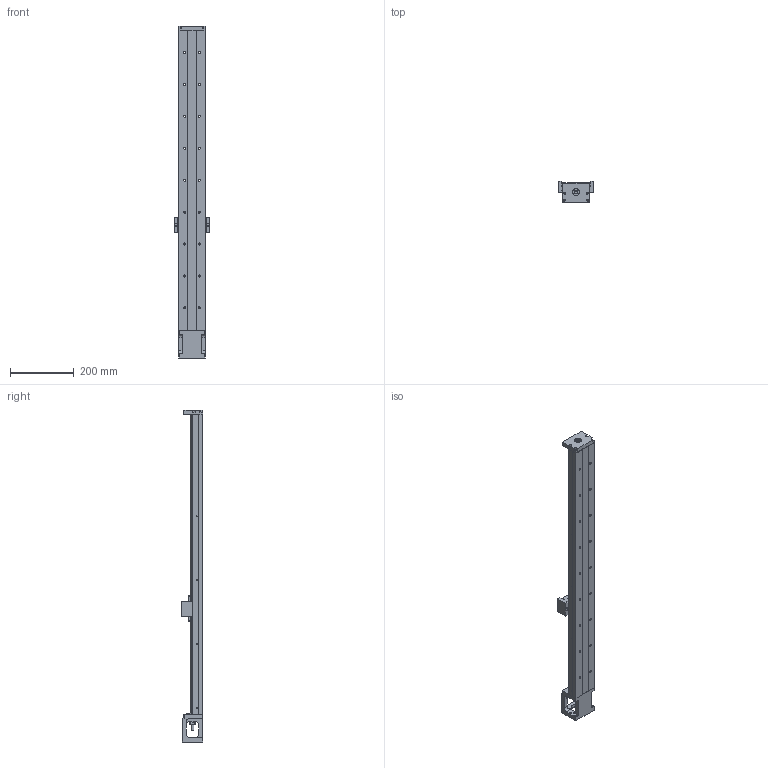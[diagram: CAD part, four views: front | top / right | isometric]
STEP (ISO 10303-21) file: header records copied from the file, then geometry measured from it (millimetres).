
FILE_DESCRIPTION(/* description */ (''),/* implementation_level */ '2;1');
FILE_NAME(/* name */ '46S-940.stp',/* time_stamp */ '2016-12-20T14:10:23+08:00',/* author */ (''),/* organization */ (''),/* preprocessor_version */ 'ST-DEVELOPER v11',/* originating_system */ 'SIEMENS UGS NX 6.0',/* authorisation */ '');
FILE_SCHEMA (('AUTOMOTIVE_DESIGN { 1 0 10303 214 1 1 1 1 }'));
Length unit declared in the file: millimetre
Products named in the file (1): model4
Bounding box: 112 x 68 x 1040 mm (x, y, z)
Volume: 2075123.6 mm3; surface area: 431443.5 mm2
Topology: 6 solids, 17 shells, 704 faces, 1854 edges, 1223 vertices
Faces by surface type: plane 328, cylinder 256, cone 59, bspline 53, torus 8
Full cylindrical faces by diameter (mm): 2 x2, 2.11 x2, 2.15 x8, 2.42 x6, 2.5 x4, 3 x4, 3.2 x4, 3.3 x12, 3.4 x4, 4 x2, 4.2 x4, 4.5 x8, 5 x8, 6 x8, 6.35 x2, 6.6 x18, 6.7 x2, 8 x1, 8.7 x4, 9.6 x1, 10 x3, 11 x18, 12 x1, 14.95 x2, 15 x1, 16 x2, 22 x3, 27.5 x1, 44 x1, 50 x1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
Entity records: 31779 total; most frequent: CARTESIAN_POINT 13290, ORIENTED_EDGE 3176, DIRECTION 3052, EDGE_CURVE 1588, VERTEX_POINT 1145, AXIS2_PLACEMENT_3D 1140, EDGE_LOOP 1003, LINE 772
